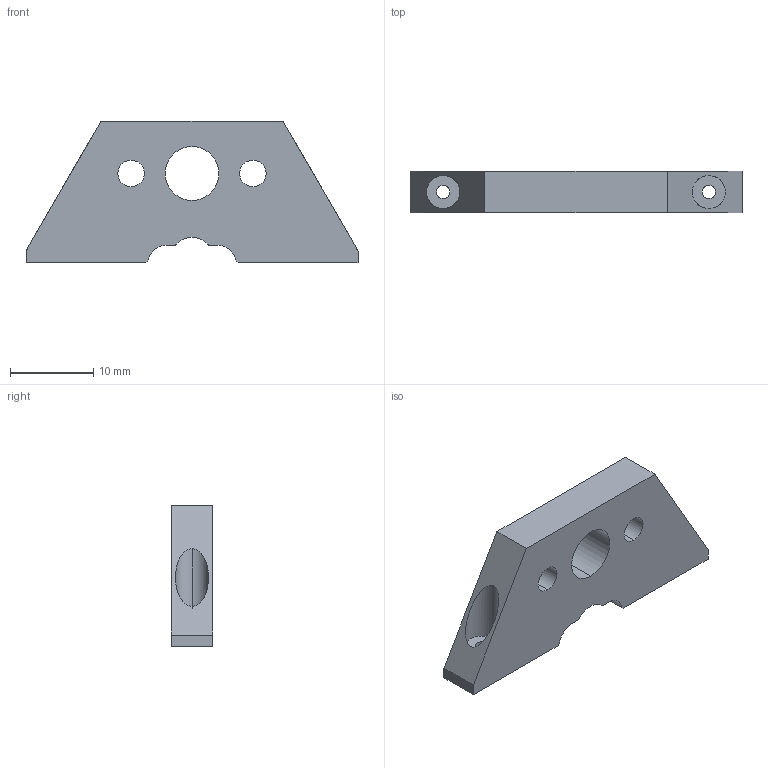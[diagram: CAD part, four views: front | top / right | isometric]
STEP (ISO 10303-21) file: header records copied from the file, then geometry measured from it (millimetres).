
FILE_DESCRIPTION (( 'STEP AP214' ), '1' );
FILE_NAME ('TRL-0055-A.STEP', '2021-06-29T01:13:54', ( '' ), ( '' ), 'SwSTEP 2.0', 'SolidWorks 2016', '' );
FILE_SCHEMA (( 'AUTOMOTIVE_DESIGN' ));
Length unit declared in the file: millimetre
Products named in the file (1): TRL-0055-A
Bounding box: 40 x 5 x 17.06 mm (x, y, z)
Volume: 2219.1 mm3; surface area: 1774.2 mm2
Topology: 1 solids, 1 shells, 35 faces, 93 edges, 62 vertices
Faces by surface type: cylinder 20, plane 15
Entity records: 1201 total; most frequent: CARTESIAN_POINT 203, DIRECTION 197, ORIENTED_EDGE 186, EDGE_CURVE 93, AXIS2_PLACEMENT_3D 72, VERTEX_POINT 62, LINE 53, VECTOR 53
